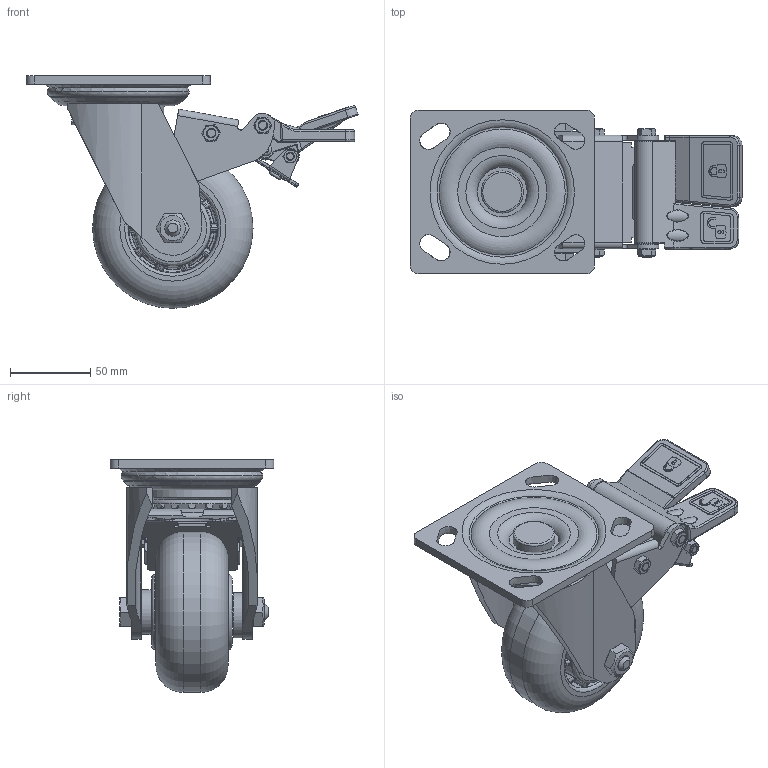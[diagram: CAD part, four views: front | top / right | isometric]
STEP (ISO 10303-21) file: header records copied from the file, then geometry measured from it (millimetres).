
FILE_DESCRIPTION(/* description */ (''),/* implementation_level */ '2;1');
FILE_NAME(/* name */ '35C65_4_F.stp',/* time_stamp */ '2022-10-17T13:12:26+08:00',/* author */ (''),/* organization */ (''),/* preprocessor_version */ 'ST-DEVELOPER v14',/* originating_system */ 'SIEMENS PLM Software NX 8.0',/* authorisation */ '');
FILE_SCHEMA (('AUTOMOTIVE_DESIGN { 1 0 10303 214 3 1 1 1 }'));
Length unit declared in the file: millimetre
Products named in the file (1): 35C65_4_F
Bounding box: 206.93 x 102 x 145 mm (x, y, z)
Volume: 17837.5 mm3; surface area: 173113.5 mm2
Topology: 2 solids, 3 shells, 1746 faces, 4523 edges, 2818 vertices
Faces by surface type: plane 630, bspline 427, cylinder 370, extrusion 147, cone 74, torus 59, sphere 39
Full cylindrical faces by diameter (mm): 4 x2, 4.2 x2, 5 x3, 5.1 x1, 5.2 x2, 6 x2, 6.2 x2, 7.78 x1, 8 x2, 9.78 x2, 10.104 x6, 12 x1, 12.2 x2, 16.2 x1, 16.3 x1, 22.276 x1, 26.256 x1, 28 x2, 30.06 x1, 40 x1, 57 x1, 100 x1
Entity records: 84564 total; most frequent: CARTESIAN_POINT 48822, ORIENTED_EDGE 8526, DIRECTION 5665, EDGE_CURVE 4263, VERTEX_POINT 2719, EDGE_LOOP 2050, AXIS2_PLACEMENT_3D 2026, ADVANCED_FACE 1746
